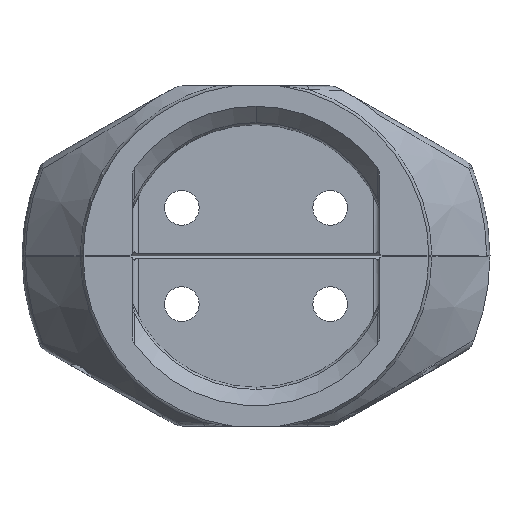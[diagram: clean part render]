
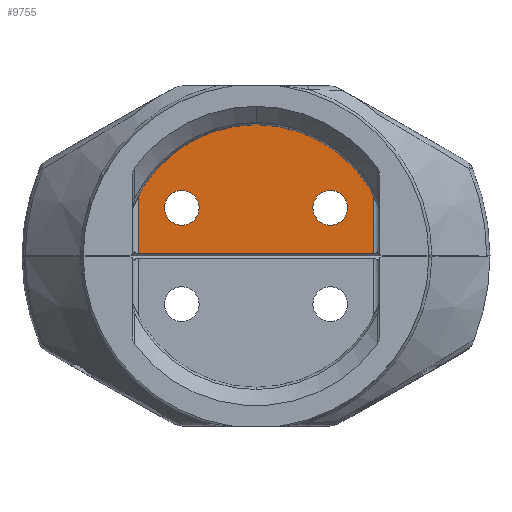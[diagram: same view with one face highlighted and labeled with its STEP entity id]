
A CAD part, left-side view. The second image highlights one B-rep face of the part: STEP entity #9755.
In plain terms, the highlighted planar face has unit normal (-1, 0, 0).
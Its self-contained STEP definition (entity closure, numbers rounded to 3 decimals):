
#307 = DIRECTION ( 'NONE',  ( 0., 1., 0. ) ) ;
#687 = CARTESIAN_POINT ( 'NONE',  ( 24.355, -0.282, 15.18 ) ) ;
#1305 = VERTEX_POINT ( 'NONE', #10381 ) ;
#1390 = EDGE_CURVE ( 'NONE', #1925, #6054, #8997, .T. ) ;
#1582 = CARTESIAN_POINT ( 'NONE',  ( 24.355, 5.018, 23.28 ) ) ;
#1600 = EDGE_LOOP ( 'NONE', ( #5589, #8946 ) ) ;
#1650 = AXIS2_PLACEMENT_3D ( 'NONE', #10239, #2736, #9265 ) ;
#1659 = EDGE_CURVE ( 'NONE', #1305, #1925, #9510, .T. ) ;
#1802 = EDGE_LOOP ( 'NONE', ( #5698, #8560 ) ) ;
#1925 = VERTEX_POINT ( 'NONE', #5966 ) ;
#1933 = DIRECTION ( 'NONE',  ( 1., 0., 0. ) ) ;
#1994 = AXIS2_PLACEMENT_3D ( 'NONE', #5082, #8640, #4075 ) ;
#2003 = AXIS2_PLACEMENT_3D ( 'NONE', #4693, #1933, #11150 ) ;
#2257 = AXIS2_PLACEMENT_3D ( 'NONE', #11655, #3376, #5199 ) ;
#2414 = FACE_BOUND ( 'NONE', #1802, .T. ) ;
#2431 = VERTEX_POINT ( 'NONE', #7747 ) ;
#2736 = DIRECTION ( 'NONE',  ( 1., 0., 0. ) ) ;
#3017 = VERTEX_POINT ( 'NONE', #7313 ) ;
#3181 = EDGE_CURVE ( 'NONE', #8694, #2431, #7058, .T. ) ;
#3333 = EDGE_CURVE ( 'NONE', #6756, #6089, #10314, .T. ) ;
#3376 = DIRECTION ( 'NONE',  ( 1., 0., 0. ) ) ;
#3553 = LINE ( 'NONE', #8856, #10924 ) ;
#3607 = AXIS2_PLACEMENT_3D ( 'NONE', #4189, #8631, #307 ) ;
#3913 = VECTOR ( 'NONE', #7760, 1000. ) ;
#4075 = DIRECTION ( 'NONE',  ( 0., 0., -1. ) ) ;
#4189 = CARTESIAN_POINT ( 'NONE',  ( 24.355, 14.018, 15.18 ) ) ;
#4241 = ORIENTED_EDGE ( 'NONE', *, *, #9410, .T. ) ;
#4581 = CIRCLE ( 'NONE', #1650, 17. ) ;
#4693 = CARTESIAN_POINT ( 'NONE',  ( 24.355, 5.018, 21.18 ) ) ;
#4704 = VECTOR ( 'NONE', #5077, 1000. ) ;
#5052 = DIRECTION ( 'NONE',  ( 1., 0., 0. ) ) ;
#5077 = DIRECTION ( 'NONE',  ( 0., 0., 1. ) ) ;
#5082 = CARTESIAN_POINT ( 'NONE',  ( 24.355, 23.018, 21.18 ) ) ;
#5142 = PLANE ( 'NONE',  #3607 ) ;
#5199 = DIRECTION ( 'NONE',  ( 0., 0., -1. ) ) ;
#5312 = ORIENTED_EDGE ( 'NONE', *, *, #9536, .F. ) ;
#5536 = CARTESIAN_POINT ( 'NONE',  ( 24.355, 23.018, 19.08 ) ) ;
#5589 = ORIENTED_EDGE ( 'NONE', *, *, #3181, .T. ) ;
#5698 = ORIENTED_EDGE ( 'NONE', *, *, #9738, .T. ) ;
#5966 = CARTESIAN_POINT ( 'NONE',  ( 24.355, -0.282, 15.63 ) ) ;
#6054 = VERTEX_POINT ( 'NONE', #11767 ) ;
#6089 = VERTEX_POINT ( 'NONE', #11897 ) ;
#6756 = VERTEX_POINT ( 'NONE', #1582 ) ;
#7058 = CIRCLE ( 'NONE', #9357, 2.1 ) ;
#7313 = CARTESIAN_POINT ( 'NONE',  ( 24.355, 28.318, 24.373 ) ) ;
#7407 = EDGE_CURVE ( 'NONE', #2431, #8694, #7614, .T. ) ;
#7468 = CIRCLE ( 'NONE', #2257, 2.1 ) ;
#7614 = CIRCLE ( 'NONE', #1994, 2.1 ) ;
#7747 = CARTESIAN_POINT ( 'NONE',  ( 24.355, 23.018, 23.28 ) ) ;
#7760 = DIRECTION ( 'NONE',  ( 0., -1., 0. ) ) ;
#7796 = FACE_BOUND ( 'NONE', #1600, .T. ) ;
#7830 = DIRECTION ( 'NONE',  ( 0., 0., -1. ) ) ;
#8560 = ORIENTED_EDGE ( 'NONE', *, *, #3333, .T. ) ;
#8631 = DIRECTION ( 'NONE',  ( 1., 0., 0. ) ) ;
#8640 = DIRECTION ( 'NONE',  ( 1., 0., 0. ) ) ;
#8694 = VERTEX_POINT ( 'NONE', #5536 ) ;
#8856 = CARTESIAN_POINT ( 'NONE',  ( 24.355, 28.318, 15.18 ) ) ;
#8946 = ORIENTED_EDGE ( 'NONE', *, *, #7407, .T. ) ;
#8997 = LINE ( 'NONE', #687, #4704 ) ;
#9265 = DIRECTION ( 'NONE',  ( 0., 0., -1. ) ) ;
#9357 = AXIS2_PLACEMENT_3D ( 'NONE', #10656, #5052, #7830 ) ;
#9410 = EDGE_CURVE ( 'NONE', #3017, #1305, #3553, .T. ) ;
#9510 = LINE ( 'NONE', #10538, #3913 ) ;
#9536 = EDGE_CURVE ( 'NONE', #3017, #6054, #4581, .T. ) ;
#9724 = FACE_OUTER_BOUND ( 'NONE', #10536, .T. ) ;
#9738 = EDGE_CURVE ( 'NONE', #6089, #6756, #7468, .T. ) ;
#9755 = ADVANCED_FACE ( 'NONE', ( #2414, #7796, #9724 ), #5142, .F. ) ;
#9887 = DIRECTION ( 'NONE',  ( 0., 0., -1. ) ) ;
#10239 = CARTESIAN_POINT ( 'NONE',  ( 24.355, 14.018, 15.18 ) ) ;
#10314 = CIRCLE ( 'NONE', #2003, 2.1 ) ;
#10377 = ORIENTED_EDGE ( 'NONE', *, *, #1659, .T. ) ;
#10381 = CARTESIAN_POINT ( 'NONE',  ( 24.355, 28.318, 15.63 ) ) ;
#10536 = EDGE_LOOP ( 'NONE', ( #10377, #12002, #5312, #4241 ) ) ;
#10538 = CARTESIAN_POINT ( 'NONE',  ( 24.355, -0.982, 15.63 ) ) ;
#10656 = CARTESIAN_POINT ( 'NONE',  ( 24.355, 23.018, 21.18 ) ) ;
#10924 = VECTOR ( 'NONE', #9887, 1000. ) ;
#11150 = DIRECTION ( 'NONE',  ( 0., 0., -1. ) ) ;
#11655 = CARTESIAN_POINT ( 'NONE',  ( 24.355, 5.018, 21.18 ) ) ;
#11767 = CARTESIAN_POINT ( 'NONE',  ( 24.355, -0.282, 24.373 ) ) ;
#11897 = CARTESIAN_POINT ( 'NONE',  ( 24.355, 5.018, 19.08 ) ) ;
#12002 = ORIENTED_EDGE ( 'NONE', *, *, #1390, .T. ) ;
